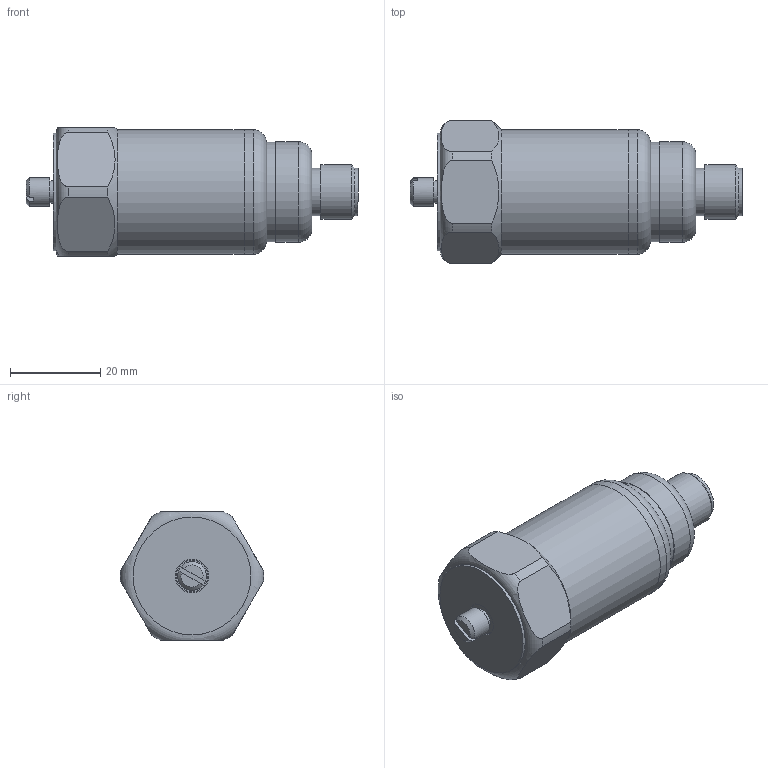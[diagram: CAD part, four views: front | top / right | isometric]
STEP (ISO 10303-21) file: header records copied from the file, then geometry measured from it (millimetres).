
FILE_DESCRIPTION(/* description */ (''),/* implementation_level */ '2;1');
FILE_NAME(/* name */ 'Z:\Engineering\Drawings\3D Library\Assemblies\Website\420 Velocity\HS-420XXX5402.stp',/* time_stamp */ '2023-05-03T13:14:42+01:00',/* author */ ('Ricardo.Peneda'),/* organization */ (''),/* preprocessor_version */ 'ST-DEVELOPER v18.1',/* originating_system */ 'Autodesk Inventor 2021',/* authorisation */ '');
FILE_SCHEMA (('AUTOMOTIVE_DESIGN { 1 0 10303 214 3 1 1 }'));
Length unit declared in the file: inch
Products named in the file (1): HS-420XXX5402_Shrinkwrap_1
Bounding box: 73.39 x 31.69 x 28.5 mm (x, y, z)
Volume: 14719.4 mm3; surface area: 11939.8 mm2
Topology: 4 solids, 4 shells, 78 faces, 203 edges, 148 vertices
Faces by surface type: plane 37, cylinder 29, cone 8, torus 4
Full cylindrical faces by diameter (mm): 4.914 x2, 6.3 x1, 6.34 x2, 7.027 x1, 7.5 x1, 9.4 x2, 10.496 x1, 10.5 x1, 12 x1, 18 x1, 19.95 x1, 20 x1, 22 x1, 22.2 x1, 23.3 x1, 25.3 x2, 26 x1, 27.5 x2
Entity records: 2742 total; most frequent: CARTESIAN_POINT 592, DIRECTION 465, ORIENTED_EDGE 406, AXIS2_PLACEMENT_3D 205, EDGE_CURVE 203, VERTEX_POINT 148, CIRCLE 126, EDGE_LOOP 95
